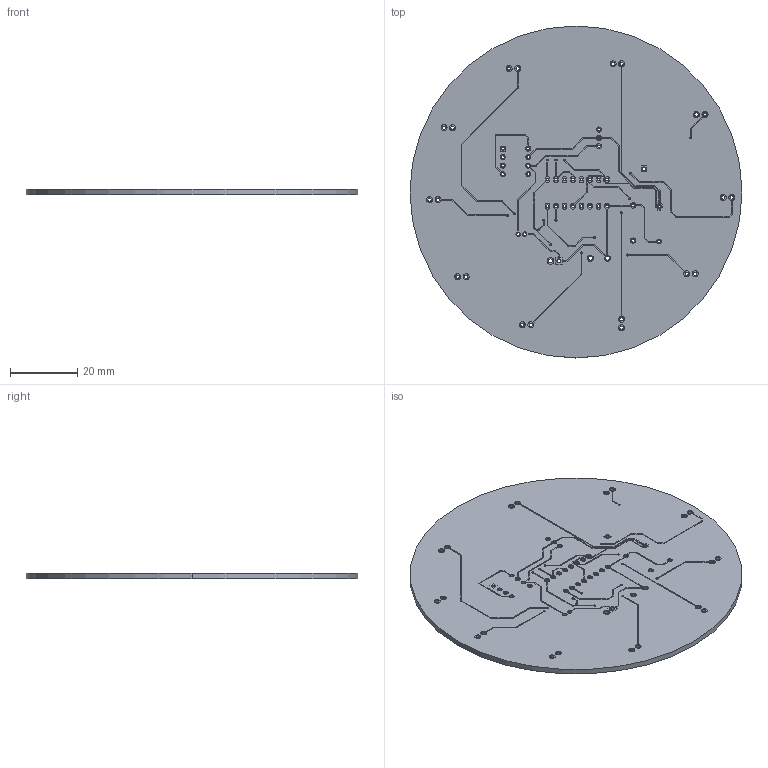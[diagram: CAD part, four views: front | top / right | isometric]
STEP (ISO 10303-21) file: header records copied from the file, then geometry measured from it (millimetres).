
FILE_DESCRIPTION(('Designed by EasyEDA Pro'),'2;1');
FILE_NAME('Open CASCADE Shape Model','2026-06-09T21:42:05',('Author'),( 'Open CASCADE'),'Open CASCADE STEP processor 7.8','Open CASCADE 7.8' ,'Unknown');
FILE_SCHEMA(('AUTOMOTIVE_DESIGN { 1 0 10303 214 1 1 1 1 }'));
Length unit declared in the file: millimetre
Products named in the file (6): EasyEDA PCB Model~n1b3; Board~n1b3; TopCopper~n1b3; BottomCopper~n1b3; TopFpcStiffener~n1b3; BottomFpcStiffener~n1b3
Assembly tree (5 placements, depth 2):
  EasyEDA PCB Model~n1b3
    Board~n1b3
    TopCopper~n1b3
    BottomCopper~n1b3
    TopFpcStiffener~n1b3
    BottomFpcStiffener~n1b3
Bounding box: 99.03 x 99.03 x 1.62 mm (x, y, z)
Volume: 12261.4 mm3; surface area: 16609.5 mm2
Topology: 1 solids, 93 shells, 244 faces, 1741 edges, 1591 vertices
Faces by surface type: cylinder 150, plane 94
Entity records: 19693 total; most frequent: CARTESIAN_POINT 3582, DIRECTION 3311, ORIENTED_EDGE 2191, EDGE_CURVE 1741, VERTEX_POINT 1591, AXIS2_PLACEMENT_3D 1320, CIRCLE 1070, LINE 671
